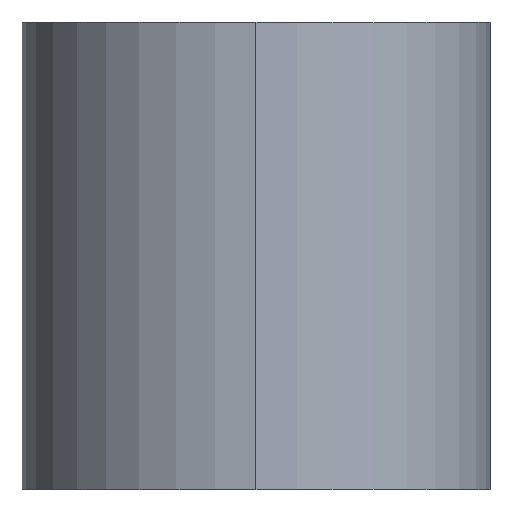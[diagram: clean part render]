
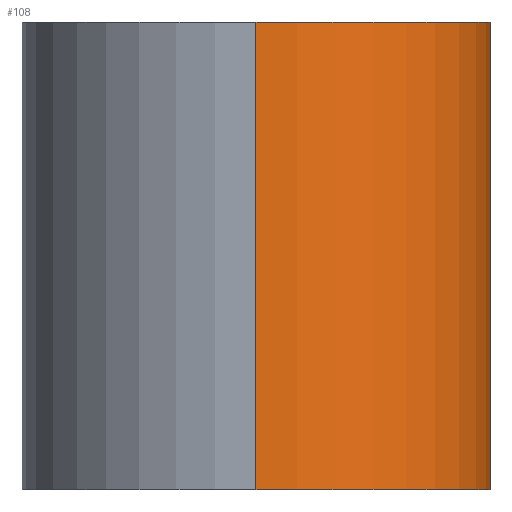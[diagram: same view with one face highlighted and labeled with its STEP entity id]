
A CAD part, left-side view. The second image highlights one B-rep face of the part: STEP entity #108.
In plain terms, the highlighted cylindrical face has radius 2 mm (diameter 4 mm), a partial arc.
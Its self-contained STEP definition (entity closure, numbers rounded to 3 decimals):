
#4 = EDGE_CURVE ( 'NONE', #62, #170, #20, .T. ) ;
#10 = CARTESIAN_POINT ( 'NONE',  ( -3., -2., 4. ) ) ;
#13 = DIRECTION ( 'NONE',  ( 0., 0., -1. ) ) ;
#20 = LINE ( 'NONE', #96, #120 ) ;
#21 = CIRCLE ( 'NONE', #184, 2. ) ;
#28 = DIRECTION ( 'NONE',  ( -1., 0., 0. ) ) ;
#34 = AXIS2_PLACEMENT_3D ( 'NONE', #152, #231, #63 ) ;
#35 = ORIENTED_EDGE ( 'NONE', *, *, #90, .T. ) ;
#38 = CARTESIAN_POINT ( 'NONE',  ( -3., -2., 4. ) ) ;
#44 = CARTESIAN_POINT ( 'NONE',  ( -3., -2., 0. ) ) ;
#45 = EDGE_CURVE ( 'NONE', #205, #55, #202, .T. ) ;
#55 = VERTEX_POINT ( 'NONE', #44 ) ;
#60 = FACE_OUTER_BOUND ( 'NONE', #111, .T. ) ;
#62 = VERTEX_POINT ( 'NONE', #66 ) ;
#63 = DIRECTION ( 'NONE',  ( 1., 0., 0. ) ) ;
#66 = CARTESIAN_POINT ( 'NONE',  ( -5., 0., 4. ) ) ;
#88 = CARTESIAN_POINT ( 'NONE',  ( -3., 0., 4. ) ) ;
#90 = EDGE_CURVE ( 'NONE', #170, #55, #217, .T. ) ;
#96 = CARTESIAN_POINT ( 'NONE',  ( -5., 0., 4. ) ) ;
#108 = ADVANCED_FACE ( 'NONE', ( #60 ), #115, .T. ) ;
#111 = EDGE_LOOP ( 'NONE', ( #125, #149, #35, #131 ) ) ;
#115 = CYLINDRICAL_SURFACE ( 'NONE', #158, 2. ) ;
#120 = VECTOR ( 'NONE', #151, 1000. ) ;
#125 = ORIENTED_EDGE ( 'NONE', *, *, #197, .F. ) ;
#131 = ORIENTED_EDGE ( 'NONE', *, *, #45, .F. ) ;
#137 = DIRECTION ( 'NONE',  ( 1., 0., 0. ) ) ;
#138 = DIRECTION ( 'NONE',  ( 0., 0., -1. ) ) ;
#149 = ORIENTED_EDGE ( 'NONE', *, *, #4, .T. ) ;
#151 = DIRECTION ( 'NONE',  ( 0., 0., -1. ) ) ;
#152 = CARTESIAN_POINT ( 'NONE',  ( -3., 0., 0. ) ) ;
#154 = CARTESIAN_POINT ( 'NONE',  ( -5., 0., 0. ) ) ;
#158 = AXIS2_PLACEMENT_3D ( 'NONE', #191, #138, #28 ) ;
#170 = VERTEX_POINT ( 'NONE', #154 ) ;
#181 = VECTOR ( 'NONE', #13, 1000. ) ;
#184 = AXIS2_PLACEMENT_3D ( 'NONE', #88, #221, #137 ) ;
#191 = CARTESIAN_POINT ( 'NONE',  ( -3., 0., 4. ) ) ;
#197 = EDGE_CURVE ( 'NONE', #62, #205, #21, .T. ) ;
#202 = LINE ( 'NONE', #38, #181 ) ;
#205 = VERTEX_POINT ( 'NONE', #10 ) ;
#217 = CIRCLE ( 'NONE', #34, 2. ) ;
#221 = DIRECTION ( 'NONE',  ( 0., 0., 1. ) ) ;
#231 = DIRECTION ( 'NONE',  ( 0., 0., 1. ) ) ;
